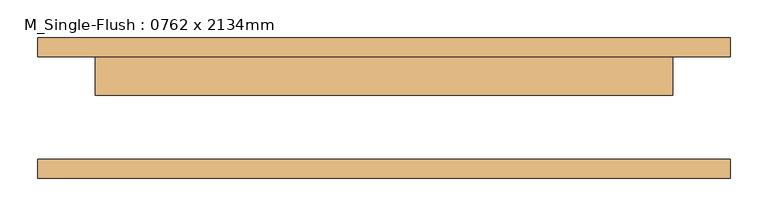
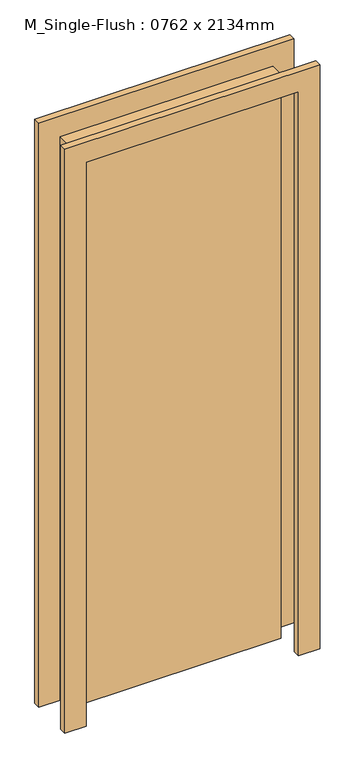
"""IFC4 building model written with IfcOpenShell, lengths in millimetres: door geometry, M_Single-Flush : 0762 x 2134mm."""

from ifc_helpers import new_model, si_unit, frame, origin, origin_with_axes, place, context, project, spatial, polyline, outline, extrude, source, transform, mapped, element, save


def m_single_flush_0762_x_2134mm_0d89e411(model_context):
    return source(origin(), model_context, "Body", "SweptSolid", [
        extrude(outline(polyline([(2210.0, -457.0), (0.0, -457.0), (0.0, -381.0), (2134.0, -381.0), (2134.0, 381.0), (0.0, 381.0), (0.0, 457.0), (2210.0, 457.0), (2210.0, -457.0)])), frame((0.0, 67.75, 0.0), z_axis=(0.0, 1.0, 0.0), x_axis=(0.0, 0.0, 1.0)), (0.0, 0.0, 1.0), 25.0),
        extrude(outline(polyline([(2210.0, 457.0), (2210.0, -457.0), (0.0, -457.0), (0.0, -381.0), (2134.0, -381.0), (2134.0, 381.0), (0.0, 381.0), (0.0, 457.0), (2210.0, 457.0)])), frame((0.0, -92.75, 0.0), z_axis=(0.0, 1.0, 0.0), x_axis=(0.0, 0.0, 1.0)), (0.0, 0.0, 1.0), 25.0),
        extrude(outline(polyline([(381.0, 16.75), (-381.0, 16.75), (-381.0, 67.75), (381.0, 67.75), (381.0, 16.75)])), origin_with_axes(), (0.0, 0.0, 1.0), 2134.0),
    ])


if __name__ == "__main__":
    model = new_model("IFC4")
    model_context = context("Model", 3, world=origin())
    ifc_project = project(units=[si_unit("LENGTHUNIT", "METRE", prefix="MILLI")], contexts=[model_context])
    site = spatial("IfcSite", under=ifc_project)
    building = spatial("IfcBuilding", under=site)
    placement = place(None, origin())
    m_single_flush_0762_x_2134mm_shape = m_single_flush_0762_x_2134mm_0d89e411(model_context)
    element("IfcDoor", 1, ObjectType="M_Single-Flush : 0762 x 2134mm", at=placement, inside=building, context=model_context, shape_type="MappedRepresentation", body=[
        mapped(m_single_flush_0762_x_2134mm_shape, transform((0.0, 0.0, 0.0), x_axis=(1.0, 0.0, 0.0), y_axis=(0.0, 1.0, 0.0), z_axis=(0.0, 0.0, 1.0))),
    ])
    save(model, "model.ifc")
